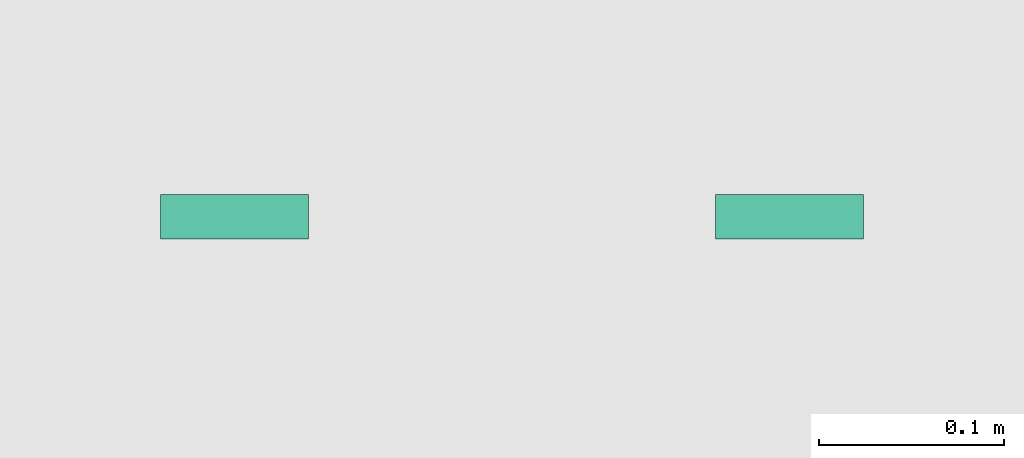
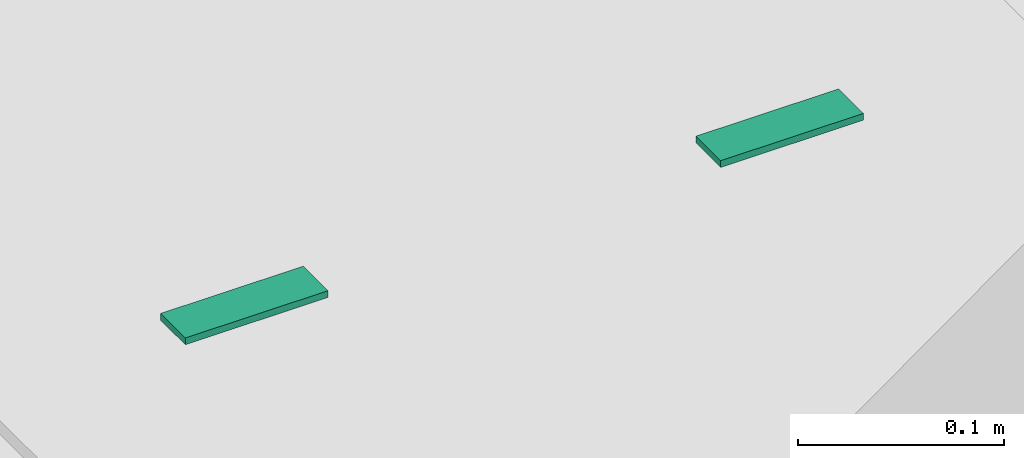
# One storey, part 72 of 90: 2 distribution chamber elements.
"""IFC2X3 building model written with IfcOpenShell, lengths in metres."""

from ifc_helpers import new_model, si_unit, origin, origin_with_axes, place, context, subcontext, project, spatial, faceted_brep, element, save


model = new_model("IFC2X3")

# Units and contexts
model_context = context("Model", 3, precision=1e-05, world=origin_with_axes())
body_context = subcontext(model_context, "Body", "Model", "MODEL_VIEW")
ifc_project = project(units=[si_unit("LENGTHUNIT", "METRE"), si_unit("AREAUNIT", "SQUARE_METRE"), si_unit("VOLUMEUNIT", "CUBIC_METRE"), si_unit("PLANEANGLEUNIT", "RADIAN")], contexts=[model_context])

# Site, building, storey
site_placement = place(None, origin_with_axes())
site = spatial("IfcSite", under=ifc_project, at=site_placement, Name="Predio Los Mangos - Morales, San Martín", CompositionType="ELEMENT")
building_placement = place(site_placement, origin())
building = spatial("IfcBuilding", under=site, at=building_placement, Name="Hogar de Refugio Temporal", CompositionType="ELEMENT")
storey_placement = place(building_placement, origin())
storey = spatial("IfcBuildingStorey", under=building, at=storey_placement, Name="NIVEL 1 (NPT +0.00)", CompositionType="ELEMENT", Elevation=0.0)

# Distribution chamber elements
distribution_chamber_element_1_placement = place(storey_placement, origin())
element("IfcDistributionChamberElement", 1, at=distribution_chamber_element_1_placement, inside=storey, Name="tapa_insp_asa", ObjectType="Tapa de inspección", context=body_context, shape_type="Brep", body=[
    faceted_brep([(28.165, 88.317, 0.104), (28.165, 88.341, 0.104), (28.245, 88.341, 0.104), (28.245, 88.317, 0.104), (28.165, 88.317, 0.108), (28.245, 88.317, 0.108), (28.245, 88.341, 0.108), (28.165, 88.341, 0.108)], [[[0, 1, 2, 3]], [[4, 5, 6, 7]], [[0, 3, 5, 4]], [[3, 2, 6, 5]], [[2, 1, 7, 6]], [[1, 0, 4, 7]]]),
])
distribution_chamber_element_2_placement = place(storey_placement, origin())
element("IfcDistributionChamberElement", 2, at=distribution_chamber_element_2_placement, inside=storey, Name="tapa_insp_asa", ObjectType="Tapa de inspección", context=body_context, shape_type="Brep", body=[
    faceted_brep([(28.465, 88.317, 0.104), (28.465, 88.341, 0.104), (28.545, 88.341, 0.104), (28.545, 88.317, 0.104), (28.465, 88.317, 0.108), (28.545, 88.317, 0.108), (28.545, 88.341, 0.108), (28.465, 88.341, 0.108)], [[[0, 1, 2, 3]], [[4, 5, 6, 7]], [[0, 3, 5, 4]], [[3, 2, 6, 5]], [[2, 1, 7, 6]], [[1, 0, 4, 7]]]),
])

save(model, "model.ifc")
